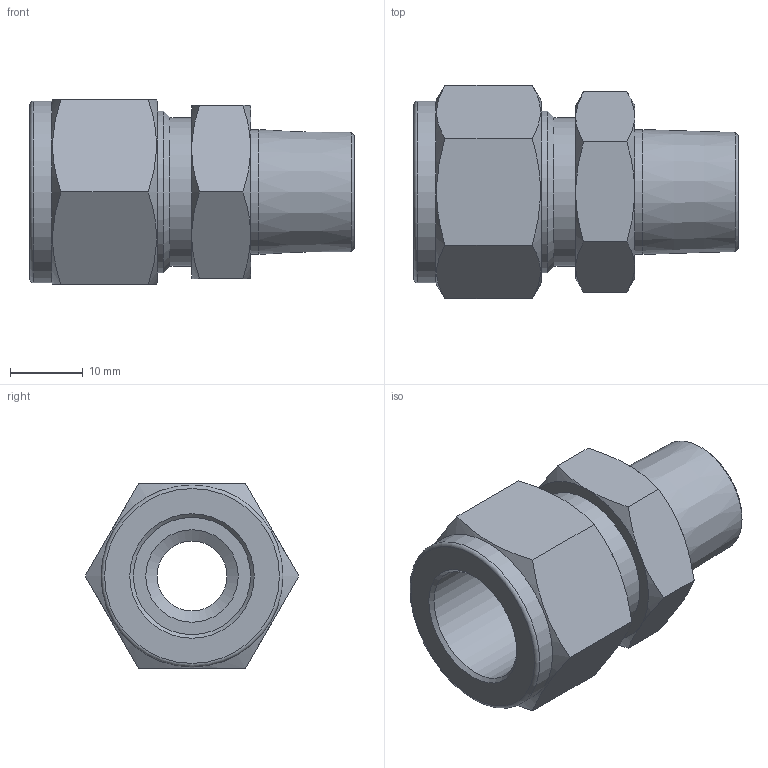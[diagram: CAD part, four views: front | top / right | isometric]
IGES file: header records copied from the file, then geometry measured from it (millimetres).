
Global section: file name: No Iges File Name specified; native system: Autodesk Inventor 2012; preprocessor: AutoDesk Inventor Iges Exporter R2012; author: 硅己绕,, ; organization: 11; date: 20150603.093156; units: millimetre
Bounding box: 44.53 x 29.33 x 25.4 mm (x, y, z)
Volume: 11602.3 mm3; surface area: 6169.8 mm2
Topology: 1 solids, 1 shells, 36 faces, 76 edges, 46 vertices
Faces by surface type: plane 18, cone 7, revolution 6, cylinder 4, torus 1
Full cylindrical faces by diameter (mm): 17.14 x1, 20.4 x1, 22.22 x1, 25 x1
